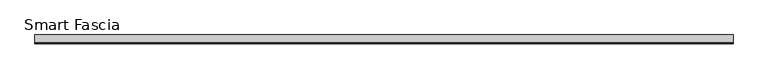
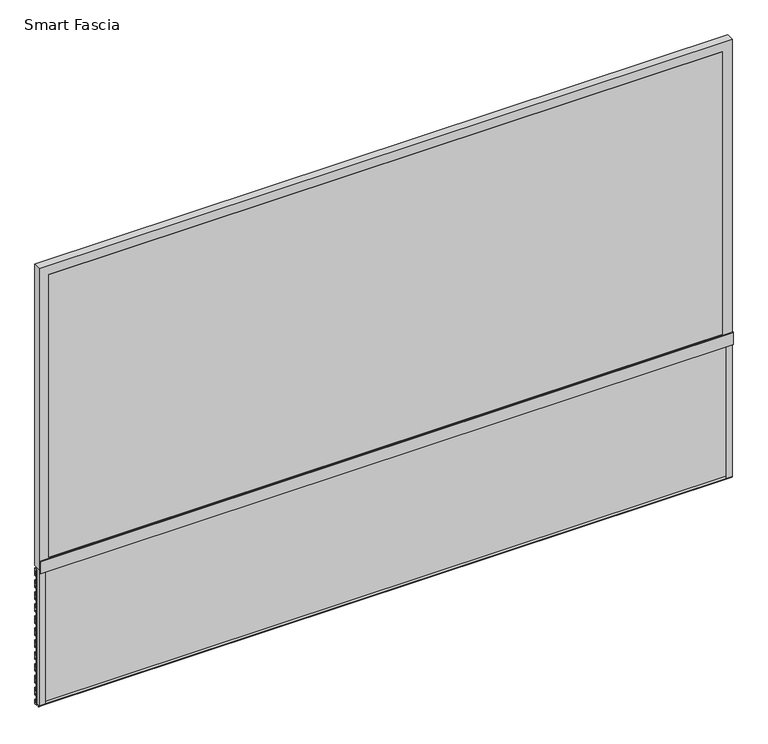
"""IFC4 building model written with IfcOpenShell, lengths in millimetres: proxy geometry, Panel-Fascia-Teknion-Altos-Smart : Smart Fascia."""

from ifc_helpers import new_model, si_unit, point, frame, frame_2d, origin, place, context, project, spatial, polyline, circle_curve, trimmed, segment, composite_curve, outline, extrude, source, transform, mapped, element, save


def smart_fascia_6a8e0afe(model_context):
    return source(origin(), model_context, "Body", "SweptSolid", [
        extrude(outline(polyline([(384.175, 1101.1069781), (1216.025, 1101.1069781), (1216.025, -707.3531782), (384.175, -707.3531782), (384.175, 1101.1069781)]), holes=[polyline([(1190.625, 1075.7069781), (409.575, 1075.7069781), (409.575, -681.9531782), (1190.625, -681.9531782), (1190.625, 1075.7069781)])]), frame((0.0, -19.05, 0.0), z_axis=(0.0, 1.0, 0.0), x_axis=(0.0, 0.0, 1.0)), (0.0, 0.0, 1.0), 19.05),
        extrude(outline(composite_curve([segment(polyline([(1099.1958264, -10.2362), (-705.4420265, -10.2362), (-705.4420265, -17.145), (-694.5060565, -17.145)]), True, "CONTINUOUS"), segment(trimmed(circle_curve(frame_2d((-694.5060565, -19.780425)), 2.635425), [point((-694.5060565, -17.145))], [point((-691.9738747, -19.05))], False, "CARTESIAN"), True, "CONTINUOUS"), segment(polyline([(-691.9738747, -19.05), (-707.3531782, -19.05), (-707.3531782, -8.7104257), (1101.1069781, -8.7104257), (1101.1069781, -19.05), (1085.7276746, -19.05)]), True, "CONTINUOUS"), segment(trimmed(circle_curve(frame_2d((1088.2598564, -19.780425)), 2.635425), [point((1085.7276746, -19.05))], [point((1088.2598564, -17.145))], False, "CARTESIAN"), True, "CONTINUOUS"), segment(polyline([(1088.2598564, -17.145), (1099.1958264, -17.145), (1099.1958264, -10.2362)]), True, "CONTINUOUS")], self_intersect=False)), frame((0.0, 0.0, 8.7376), z_axis=(0.0, 0.0, 1.0), x_axis=(1.0, 0.0, 0.0)), (0.0, 0.0, 1.0), 375.4374),
        extrude(outline(composite_curve([segment(polyline([(0.0, 14.605), (0.0, 3.175), (-8.7104257, 3.175), (-8.7104257, 6.9350384), (-16.7160026, 6.9350384), (-14.2567796, 4.4758154)]), True, "CONTINUOUS"), segment(trimmed(circle_curve(frame_2d((-14.7399119, 3.992683)), 0.6832523), [point((-14.2567796, 4.4758154))], [point((-15.2230443, 3.5095507))], False, "CARTESIAN"), True, "CONTINUOUS"), segment(polyline([(-15.2230443, 3.5095507), (-18.817516, 7.1040224)]), True, "CONTINUOUS"), segment(trimmed(circle_curve(frame_2d((-18.25625, 7.6652884)), 0.79375), [point((-18.817516, 7.1040224))], [point((-18.25625, 8.4590384))], False, "CARTESIAN"), True, "CONTINUOUS"), segment(polyline([(-18.25625, 8.4590384), (-8.7104257, 8.4590384), (-8.7104257, 375.793), (-23.1122257, 375.793), (-23.1122257, 408.559)]), True, "CONTINUOUS"), segment(trimmed(circle_curve(frame_2d((-22.0962257, 408.559)), 1.016), [point((-23.1122257, 408.559))], [point((-21.0802257, 408.559))], False, "CARTESIAN"), True, "CONTINUOUS"), segment(polyline([(-21.0802257, 408.559), (-21.0802257, 377.825), (0.0, 377.825), (0.0, 356.743), (-1.5730257, 356.743), (-1.5730257, 371.0775679)]), True, "CONTINUOUS"), segment(trimmed(circle_curve(frame_2d((-4.3543257, 371.0775679)), 2.7813), [point((-1.5730257, 371.0775679))], [point((-7.1356257, 371.0775679))], True, "CARTESIAN"), True, "CONTINUOUS"), segment(polyline([(-7.1356257, 371.0775679), (-7.1356257, 334.8228), (-1.5730257, 334.8228), (-1.5730257, 344.3478), (0.0, 344.3478), (0.0, 323.723), (-1.5730257, 323.723), (-1.5730257, 333.248), (-7.1356257, 333.248), (-7.1356257, 301.8028), (-1.5730257, 301.8028), (-1.5730257, 311.3278), (0.0, 311.3278), (0.0, 290.703), (-1.5730257, 290.703), (-1.5730257, 300.228), (-7.1356257, 300.228), (-7.1356257, 270.2814), (-1.5730257, 270.2814), (-1.5730257, 278.3078), (0.0, 278.3078), (0.0, 257.9116), (-1.5730257, 257.9116), (-1.5730257, 265.303), (-7.1356257, 265.303), (-7.1356257, 235.9914), (-1.5730257, 235.9914), (-1.5730257, 245.5164), (0.0, 245.5164), (0.0, 224.8916), (-1.5730257, 224.8916), (-1.5730257, 234.4166), (-7.1356257, 234.4166), (-7.1356257, 202.9714), (-1.5730257, 202.9714), (-1.5730257, 212.4964), (0.0, 212.4964), (0.0, 191.8716), (-1.5730257, 191.8716), (-1.5730257, 201.3966), (-7.1356257, 201.3966), (-7.1356257, 169.9514), (-1.5730257, 169.9514), (-1.5730257, 179.4764), (0.0, 179.4764), (0.0, 158.8516), (-1.5730257, 158.8516), (-1.5730257, 168.3766), (-7.1356257, 168.3766), (-7.1356257, 138.43), (-1.5730257, 138.43), (-1.5730257, 146.4564), (0.0, 146.4564), (0.0, 126.0602), (-1.5730257, 126.0602), (-1.5730257, 133.4516), (-7.1356257, 133.4516), (-7.1356257, 104.14), (-1.5730257, 104.14), (-1.5730257, 113.665), (0.0, 113.665), (0.0, 93.0402), (-1.5730257, 93.0402), (-1.5730257, 102.5652), (-7.1356257, 102.5652), (-7.1356257, 71.12), (-1.5730257, 71.12), (-1.5730257, 80.645), (0.0, 80.645), (0.0, 60.0202), (-1.5730257, 60.0202), (-1.5730257, 69.5452), (-7.1356257, 69.5452), (-7.1356257, 38.1), (-1.5730257, 38.1), (-1.5730257, 47.625), (0.0, 47.625), (0.0, 27.0002), (-1.5730257, 27.0002), (-1.5730257, 36.5252), (-7.1356257, 36.5252), (-7.1356257, 6.5786), (-1.5730257, 6.5786), (-1.5730257, 14.605), (0.0, 14.605)]), True, "CONTINUOUS")], self_intersect=False)), frame((-707.3531782, 0.0, 0.0), z_axis=(1.0, 0.0, 0.0), x_axis=(0.0, 1.0, 0.0)), (0.0, 0.0, 1.0), 1808.4601562),
        extrude(outline(polyline([(1075.7069781, -19.05), (-681.9531782, -19.05), (-681.9531782, 0.0), (1075.7069781, 0.0), (1075.7069781, -19.05)])), frame((0.0, 0.0, 409.575), z_axis=(0.0, 0.0, 1.0), x_axis=(1.0, 0.0, 0.0)), (0.0, 0.0, 1.0), 781.05),
    ])


if __name__ == "__main__":
    model = new_model("IFC4")
    model_context = context("Model", 3, world=origin())
    ifc_project = project(units=[si_unit("LENGTHUNIT", "METRE", prefix="MILLI")], contexts=[model_context])
    site = spatial("IfcSite", under=ifc_project)
    building = spatial("IfcBuilding", under=site)
    placement = place(None, origin())
    smart_fascia_shape = smart_fascia_6a8e0afe(model_context)
    element("IfcBuildingElementProxy", 1, Name="Panel-Fascia-Teknion-Altos-Smart : Smart Fascia", ObjectType="Panel-Fascia-Teknion-Altos-Smart : Smart Fascia", at=placement, inside=building, context=model_context, shape_type="MappedRepresentation", body=[
        mapped(smart_fascia_shape, transform((0.0, 0.0, 0.0), x_axis=(1.0, 0.0, 0.0), y_axis=(0.0, 1.0, 0.0), z_axis=(0.0, 0.0, 1.0))),
    ])
    save(model, "model.ifc")
